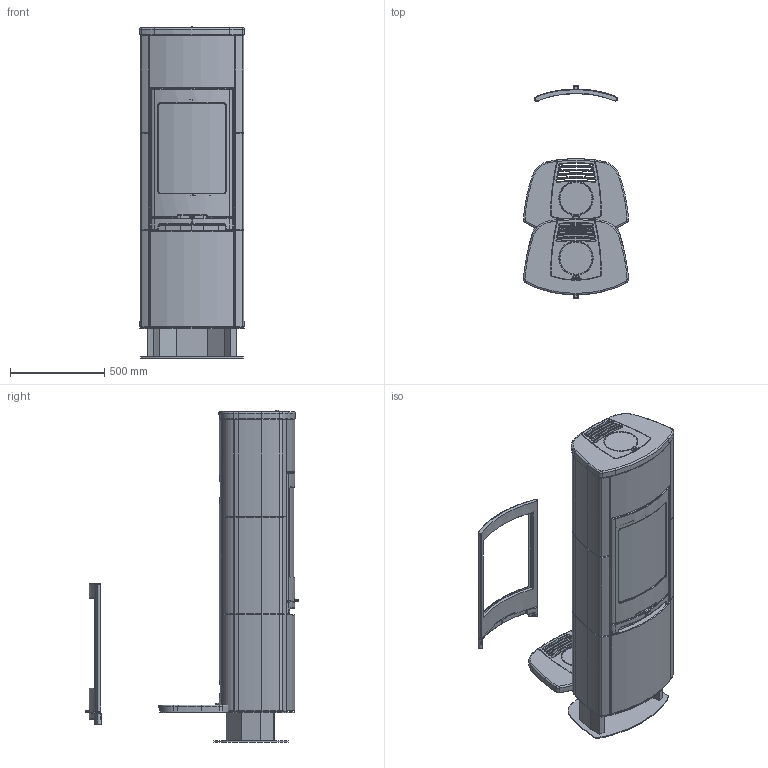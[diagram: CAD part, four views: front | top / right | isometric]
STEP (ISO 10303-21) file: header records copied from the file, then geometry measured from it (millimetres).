
FILE_DESCRIPTION( ( 'Unknown' ), '1' );
FILE_NAME( 'C:/Users/HAnilsd/AppData/Roaming/Unigraphics Solutions/Solid Edge/Insight/insight/insight/interior models/C790T Assembly.stp', 'Unknown', ( 'Unknown' ), ( 'Unknown' ), 'PSStep 13.0', 'Unknown', ' ' );
FILE_SCHEMA( ( 'AUTOMOTIVE_DESIGN { 1 0 10303 214 1 1 1 1 }' ) );
Length unit declared in the file: millimetre
Products named in the file (16): Assem1; Door C700; Glass C790; Stove body C790; Back plate C790; Vermiculite C790; Fire C700; Soapstone Set C790T; Lower front Soapstone C790T; Soapstone top C790T
Bounding box: 556.17 x 1127.04 x 1759.1 mm (x, y, z)
Volume: 423034920.8 mm3; surface area: 21328318.7 mm2
Topology: 30 solids, 32 shells, 2136 faces, 5336 edges, 3252 vertices
Faces by surface type: plane 690, cylinder 512, bspline 410, cone 304, torus 124, extrusion 60, sphere 34, revolution 2
Full cylindrical faces by diameter (mm): 5 x12, 10.1 x4, 15 x2, 65 x2, 150 x4, 168 x6, 170 x4, 204 x2, 208 x2
Entity records: 70882 total; most frequent: CARTESIAN_POINT 38659, ORIENTED_EDGE 5182, DIRECTION 4428, EDGE_CURVE 2591, AXIS2_PLACEMENT_3D 1644, VERTEX_POINT 1603, EDGE_LOOP 1166, VECTOR 1139
